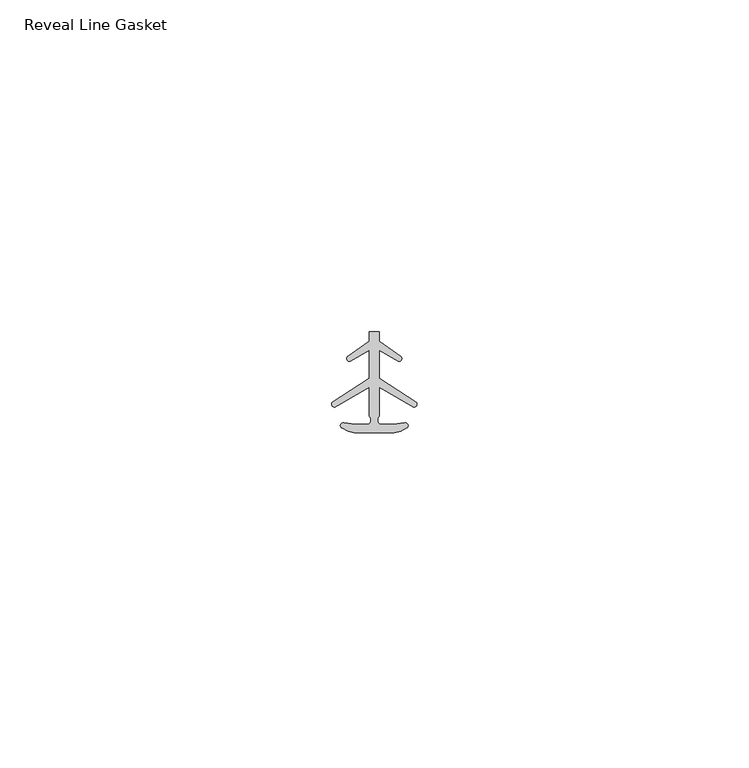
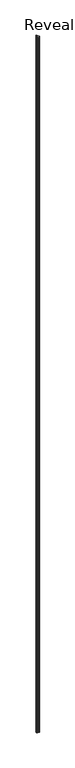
"""IFC4 building model written with IfcOpenShell, lengths in millimetres: proxy geometry, Accessories-Teknion-FHGR-AI_Healthcare-Reveal_Line_Gasket-R2021 : Reveal Line Gasket."""

from ifc_helpers import new_model, si_unit, point, frame, frame_2d, origin, place, context, project, spatial, polyline, circle_curve, trimmed, segment, composite_curve, outline, extrude, source, transform, mapped, element, save


def reveal_line_gasket_6c5ee8c9(model_context):
    return source(origin(), model_context, "Body", "SweptSolid", [
        extrude(outline(composite_curve([segment(polyline([(2.999107, -7.6326998), (-3.000893, -7.6326998), (-3.9563857, -7.4091917), (-4.8893614, -6.8813059)]), True, "CONTINUOUS"), segment(trimmed(circle_curve(frame_2d((-4.6873723, -6.5243141)), 0.4101739), [point((-4.8893614, -6.8813059))], [point((-4.5950277, -6.1246704))], False, "CARTESIAN"), True, "CONTINUOUS"), segment(polyline([(-4.5950277, -6.1246704), (-2.8988015, -6.3626997), (-0.8663457, -6.3626997)]), True, "CONTINUOUS"), segment(trimmed(circle_curve(frame_2d((-1.2828188, -5.6959605)), 0.786124), [point((-0.8663457, -6.3626997))], [point((-0.778768, -5.0926996))], True, "CARTESIAN"), True, "CONTINUOUS"), segment(polyline([(-0.778768, -5.0926996), (-0.778768, -0.7492996), (-5.9404224, -3.7293824)]), True, "CONTINUOUS"), segment(trimmed(circle_curve(frame_2d((-6.0058691, -3.3132479)), 0.4212495), [point((-5.9404224, -3.7293824))], [point((-6.3335288, -3.0485022))], False, "CARTESIAN"), True, "CONTINUOUS"), segment(polyline([(-6.3335288, -3.0485022), (-0.778768, 0.5742594), (-0.778768, 4.8262978), (-3.6544226, 3.1660374)]), True, "CONTINUOUS"), segment(trimmed(circle_curve(frame_2d((-3.7127785, 3.5978728)), 0.4357605), [point((-3.6544226, 3.1660374))], [point((-4.0575811, 3.864328))], False, "CARTESIAN"), True, "CONTINUOUS"), segment(polyline([(-4.0575811, 3.864328), (-0.778768, 6.1944059), (-0.778768, 7.6326998), (0.7769821, 7.6326998), (0.7769821, 6.1944059), (4.0557951, 3.864328)]), True, "CONTINUOUS"), segment(trimmed(circle_curve(frame_2d((3.7109925, 3.5978728)), 0.4357605), [point((4.0557951, 3.864328))], [point((3.6526367, 3.1660374))], False, "CARTESIAN"), True, "CONTINUOUS"), segment(polyline([(3.6526367, 3.1660374), (0.7769821, 4.8262978), (0.7769821, 0.5742594), (6.3317429, -3.0485022)]), True, "CONTINUOUS"), segment(trimmed(circle_curve(frame_2d((6.0040832, -3.3132479)), 0.4212495), [point((6.3317429, -3.0485022))], [point((5.9386365, -3.7293824))], False, "CARTESIAN"), True, "CONTINUOUS"), segment(polyline([(5.9386365, -3.7293824), (0.7769821, -0.7492996), (0.7769821, -5.0926996)]), True, "CONTINUOUS"), segment(trimmed(circle_curve(frame_2d((1.2810328, -5.6959605)), 0.786124), [point((0.7769821, -5.0926996))], [point((0.8645598, -6.3626997))], True, "CARTESIAN"), True, "CONTINUOUS"), segment(polyline([(0.8645598, -6.3626997), (2.8970156, -6.3626997), (4.5932418, -6.1246704)]), True, "CONTINUOUS"), segment(trimmed(circle_curve(frame_2d((4.6855864, -6.5243141)), 0.4101739), [point((4.5932418, -6.1246704))], [point((4.8875754, -6.8813059))], False, "CARTESIAN"), True, "CONTINUOUS"), segment(polyline([(4.8875754, -6.8813059), (3.9545998, -7.4091917), (2.999107, -7.6326998)]), True, "CONTINUOUS")], self_intersect=False)), frame((0.0, 0.0, 84.836), z_axis=(0.0, 0.0, 1.0), x_axis=(1.0, 0.0, 0.0)), (0.0, 0.0, 1.0), 2979.039),
    ])


if __name__ == "__main__":
    model = new_model("IFC4")
    model_context = context("Model", 3, world=origin())
    ifc_project = project(units=[si_unit("LENGTHUNIT", "METRE", prefix="MILLI")], contexts=[model_context])
    site = spatial("IfcSite", under=ifc_project)
    building = spatial("IfcBuilding", under=site)
    placement = place(None, origin())
    reveal_line_gasket_shape = reveal_line_gasket_6c5ee8c9(model_context)
    element("IfcBuildingElementProxy", 1, Name="Accessories-Teknion-FHGR-AI_Healthcare-Reveal_Line_Gasket-R2021 : Reveal Line Gasket", ObjectType="Accessories-Teknion-FHGR-AI_Healthcare-Reveal_Line_Gasket-R2021 : Reveal Line Gasket", at=placement, inside=building, context=model_context, shape_type="MappedRepresentation", body=[
        mapped(reveal_line_gasket_shape, transform((0.0, 0.0, 0.0), x_axis=(1.0, 0.0, 0.0), y_axis=(0.0, 1.0, 0.0), z_axis=(0.0, 0.0, 1.0))),
    ])
    save(model, "model.ifc")
